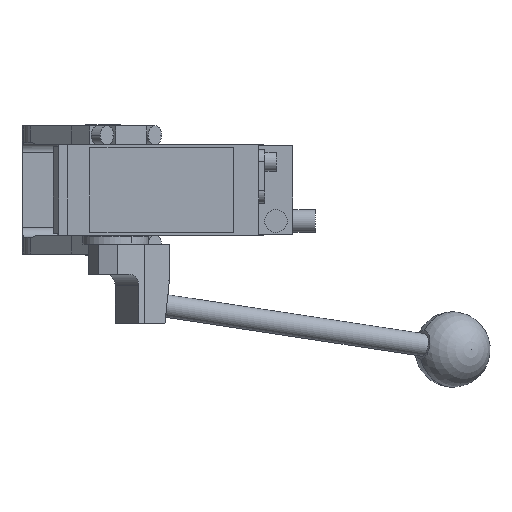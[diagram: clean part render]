
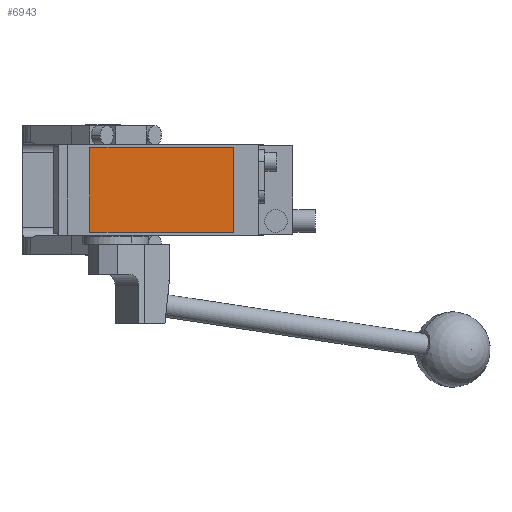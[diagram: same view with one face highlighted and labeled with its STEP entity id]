
A CAD part, front view. The second image highlights one B-rep face of the part: STEP entity #6943.
In plain terms, the highlighted planar face has unit normal (0, -1, 0).
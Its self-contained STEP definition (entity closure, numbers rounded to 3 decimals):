
#705 = CARTESIAN_POINT ( 'NONE',  ( -7., -280.5, -22.5 ) ) ;
#1611 = LINE ( 'NONE', #14804, #7009 ) ;
#2441 = VERTEX_POINT ( 'NONE', #705 ) ;
#2658 = DIRECTION ( 'NONE',  ( -1., 0., 0. ) ) ;
#2754 = DIRECTION ( 'NONE',  ( 0., 0., 1. ) ) ;
#3510 = CARTESIAN_POINT ( 'NONE',  ( -7., -280.5, -22.5 ) ) ;
#4740 = VERTEX_POINT ( 'NONE', #15132 ) ;
#4742 = VECTOR ( 'NONE', #9619, 1000. ) ;
#4910 = CARTESIAN_POINT ( 'NONE',  ( 69., -280.5, 22.5 ) ) ;
#5750 = AXIS2_PLACEMENT_3D ( 'NONE', #8206, #11642, #10586 ) ;
#5759 = CARTESIAN_POINT ( 'NONE',  ( -7., -280.5, 22.5 ) ) ;
#5868 = LINE ( 'NONE', #3510, #4742 ) ;
#6250 = DIRECTION ( 'NONE',  ( 0., 0., -1. ) ) ;
#6943 = ADVANCED_FACE ( 'NONE', ( #14243 ), #7975, .T. ) ;
#7009 = VECTOR ( 'NONE', #2754, 1000. ) ;
#7975 = PLANE ( 'NONE',  #5750 ) ;
#8206 = CARTESIAN_POINT ( 'NONE',  ( 0., -280.5, 0. ) ) ;
#8483 = EDGE_LOOP ( 'NONE', ( #15143, #10064, #10087, #11901 ) ) ;
#8544 = VERTEX_POINT ( 'NONE', #4910 ) ;
#8640 = CARTESIAN_POINT ( 'NONE',  ( -7., -280.5, 22.5 ) ) ;
#9619 = DIRECTION ( 'NONE',  ( 1., 0., 0. ) ) ;
#10064 = ORIENTED_EDGE ( 'NONE', *, *, #12903, .T. ) ;
#10087 = ORIENTED_EDGE ( 'NONE', *, *, #12602, .T. ) ;
#10120 = LINE ( 'NONE', #14641, #12049 ) ;
#10586 = DIRECTION ( 'NONE',  ( 0., 0., -1. ) ) ;
#10692 = EDGE_CURVE ( 'NONE', #8544, #12417, #10120, .T. ) ;
#11195 = EDGE_CURVE ( 'NONE', #12417, #2441, #12289, .T. ) ;
#11642 = DIRECTION ( 'NONE',  ( 0., -1., 0. ) ) ;
#11901 = ORIENTED_EDGE ( 'NONE', *, *, #10692, .T. ) ;
#12049 = VECTOR ( 'NONE', #2658, 1000. ) ;
#12289 = LINE ( 'NONE', #8640, #14594 ) ;
#12417 = VERTEX_POINT ( 'NONE', #5759 ) ;
#12602 = EDGE_CURVE ( 'NONE', #4740, #8544, #1611, .T. ) ;
#12903 = EDGE_CURVE ( 'NONE', #2441, #4740, #5868, .T. ) ;
#14243 = FACE_OUTER_BOUND ( 'NONE', #8483, .T. ) ;
#14594 = VECTOR ( 'NONE', #6250, 1000. ) ;
#14641 = CARTESIAN_POINT ( 'NONE',  ( -7., -280.5, 22.5 ) ) ;
#14804 = CARTESIAN_POINT ( 'NONE',  ( 69., -280.5, 22.5 ) ) ;
#15132 = CARTESIAN_POINT ( 'NONE',  ( 69., -280.5, -22.5 ) ) ;
#15143 = ORIENTED_EDGE ( 'NONE', *, *, #11195, .T. ) ;
